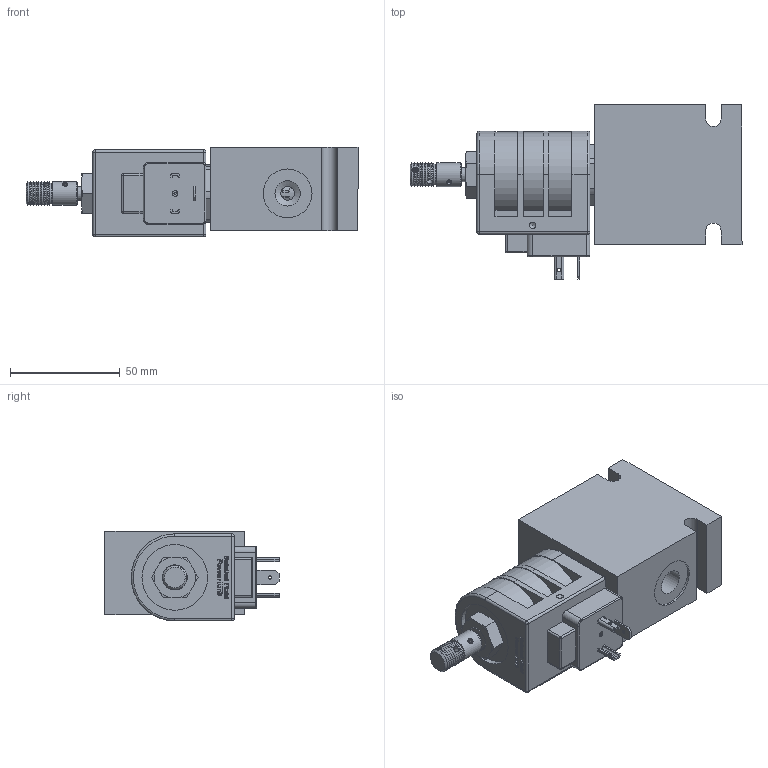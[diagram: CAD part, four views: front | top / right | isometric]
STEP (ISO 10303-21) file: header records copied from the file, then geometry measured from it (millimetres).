
FILE_DESCRIPTION( ( 'Unknown' ), '1' );
FILE_NAME( 'G:/Graphic Design/Graphic Design 2/Data Sheets/SOLENOID OPERATED VALVES/4_STEP/3W2P Spool/DF-S3A0M-A3.stp', 'Unknown', ( 'Unknown' ), ( 'Unknown' ), 'PSStep 15.0.49', 'Unknown', ' ' );
FILE_SCHEMA( ( 'AUTOMOTIVE_DESIGN { 1 0 10303 214 1 1 1 1 }' ) );
Length unit declared in the file: millimetre
Products named in the file (22): d-dhc12; DHC-Body; DHC-Disc; DHC-Disc-oa0; PT-EL-HC-TerminalConnectors; d-df-s3a-0m; DFS3A0M-3D Full1; DFS3A0M-3D Full2; DFS3A0M-3D Full3; DFS3A0M-3D Full4; DFS3A0M-3D Full5; DFS3A0M-3D Full6; DFS3A0M-3D Full7; DFS3A0M-3D Full8; DFS3A0M-3D Full9; DFS3A0M-3D Full10; Delta_1_2_nut1; Assem1; B-D-DF-A3A
Assembly tree (21 placements, depth 3):
  Assem1
    B-D-DF-A3A
    d-dhc12
      DHC-Body
      DHC-Disc
      DHC-Disc-oa0
      PT-EL-HC-TerminalConnectors
      PT-EL-HC-TerminalConnectors
      PT-EL-HC-TerminalConnectors
      PT-EL-HC-TerminalConnectors
    d-df-s3a-0m
      DFS3A0M-3D Full1
      DFS3A0M-3D Full2
      DFS3A0M-3D Full3
      DFS3A0M-3D Full4
      DFS3A0M-3D Full5
      DFS3A0M-3D Full6
      DFS3A0M-3D Full7
      DFS3A0M-3D Full8
      DFS3A0M-3D Full9
      DFS3A0M-3D Full10
      Delta_1_2_nut1
Bounding box: 150.94 x 79.15 x 40.9 mm (x, y, z)
Volume: 241008.8 mm3; surface area: 55680.9 mm2
Topology: 19 solids, 19 shells, 974 faces, 2469 edges, 1591 vertices
Faces by surface type: plane 516, cone 174, cylinder 123, extrusion 118, torus 37, sphere 6
Full cylindrical faces by diameter (mm): 1 x1, 1.5 x3, 2.426 x2, 2.5 x1, 3 x2, 6.3 x1, 9.144 x1, 10.161 x1, 10.922 x1, 11 x1, 11.11 x1, 11.5 x6, 12.675 x1, 12.7 x2, 12.992 x1, 13 x1, 13.043 x2, 14 x1, 14.275 x1, 14.592 x1, 14.643 x2, 15.773 x4, 15.875 x2, 15.926 x1, 17.323 x1, 17.374 x4, 17.526 x1, 17.527 x1, 19.624 x1, 20.262 x2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
Entity records: 37518 total; most frequent: CARTESIAN_POINT 8067, ORIENTED_EDGE 4480, DIRECTION 3776, EDGE_CURVE 2240, VERTEX_POINT 1558, AXIS2_PLACEMENT_3D 1335, EDGE_LOOP 1257, VECTOR 1106
